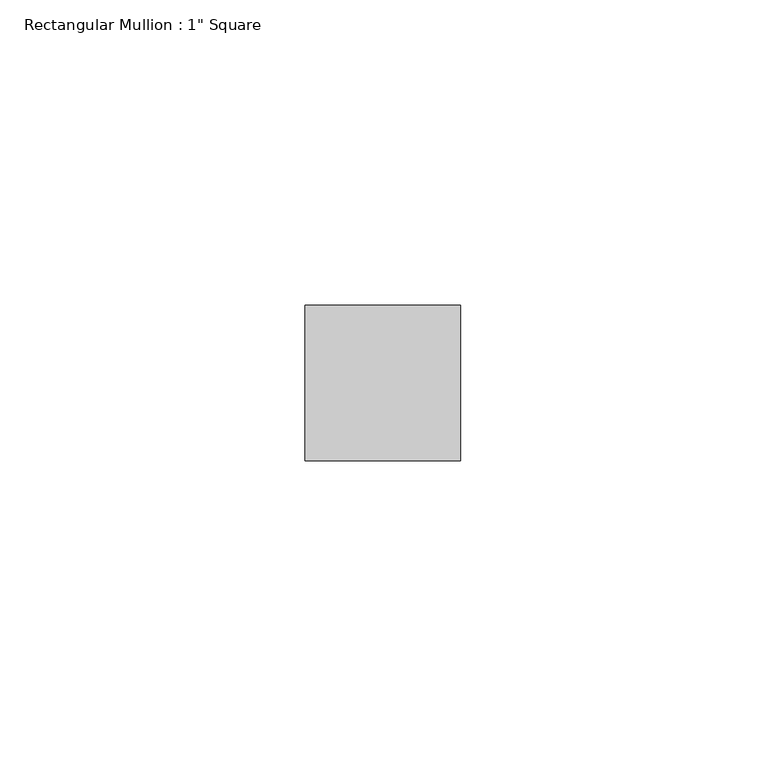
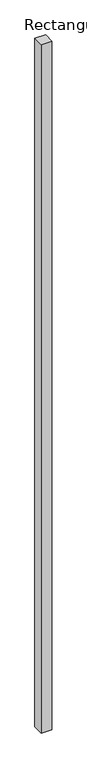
"""IFC4 building model written with IfcOpenShell, lengths in millimetres: member geometry."""

from ifc_helpers import new_model, si_unit, frame, origin, place, context, project, spatial, polyline, outline, extrude, source, transform, mapped, element, save


def member_09e3c60a(model_context):
    return source(origin(), model_context, "Body", "SweptSolid", [
        extrude(outline(polyline([(12.7, 12.7), (12.7, -12.7), (-12.7, -12.7), (-12.7, 12.7), (12.7, 12.7)])), frame((0.0, 0.0, -1715.5871241), z_axis=(0.0, 0.0, 1.0), x_axis=(1.0, 0.0, 0.0)), (0.0, 0.0, 1.0), 1715.5871241),
    ])


if __name__ == "__main__":
    model = new_model("IFC4")
    model_context = context("Model", 3, world=origin())
    ifc_project = project(units=[si_unit("LENGTHUNIT", "METRE", prefix="MILLI")], contexts=[model_context])
    site = spatial("IfcSite", under=ifc_project)
    building = spatial("IfcBuilding", under=site)
    placement = place(None, origin())
    member_shape = member_09e3c60a(model_context)
    element("IfcMember", 1, ObjectType="Rectangular Mullion : 1\" Square", at=placement, inside=building, context=model_context, shape_type="MappedRepresentation", body=[
        mapped(member_shape, transform((0.0, 0.0, 0.0), x_axis=(1.0, 0.0, 0.0), y_axis=(0.0, 1.0, 0.0), z_axis=(0.0, 0.0, 1.0))),
    ])
    save(model, "model.ifc")
